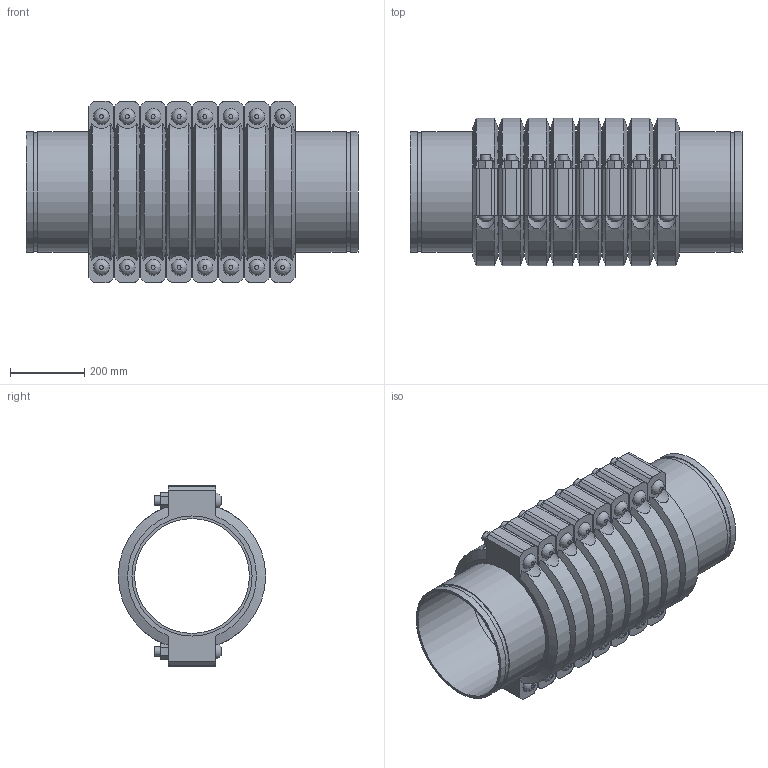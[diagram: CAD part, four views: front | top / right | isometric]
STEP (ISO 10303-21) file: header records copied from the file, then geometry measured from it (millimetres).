
FILE_DESCRIPTION(/* description */ ('VIC SS EXPANSION JOINT 8 COUPLINGS COMPRESSED STYLE 155P (OGS) (POTABLE WATER) ','CAx-IF Rec.Pracs.---Representation and Presentation of Product Manufacturing Information (PMI)---4.0---2014-10-13'),/* implementation_level */ '2;1');
FILE_NAME(/* name */ 'C:\Users\kkamble\AppData\Roaming\Autodesk\ApplicationPlugins\Victaulic.Temp\A39\Victaulic_SS_Expansion Joint_Compressed_8 Couplings_Style 155P (OGS)-Potable Water_8 Coup_Comp_12 (300).stp',/* time_stamp */ '2021-07-16T17:17:39+06:00',/* author */ ('kkamble'),/* organization */ ('Victaulic'),/* preprocessor_version */ 'ST-DEVELOPER v17.2',/* originating_system */ 'Autodesk Inventor 2019',/* authorisation */ '');
FILE_SCHEMA (('AP242_MANAGED_MODEL_BASED_3D_ENGINEERING_MIM_LF { 1 0 10303 442 1 1 4 }'));
Length unit declared in the file: inch
Products named in the file (4): 155P-12.0; Nipple-12.0; Nipple-12.0_1; 077-12.0
Assembly tree (17 placements, depth 2):
  155P-12.0
    Nipple-12.0  x2
    Nipple-12.0_1  x7
    077-12.0  x8
Bounding box: 895.35 x 397 x 488.95 mm (x, y, z)
Volume: 32857080.9 mm3; surface area: 4495581.5 mm2
Topology: 17 solids, 33 shells, 564 faces, 1382 edges, 968 vertices
Faces by surface type: plane 326, cylinder 190, cone 32, bspline 16
Full cylindrical faces by diameter (mm): 25.4 x32, 27.432 x16, 309.677 x9, 318.287 x18, 323.85 x35
Entity records: 2993 total; most frequent: CARTESIAN_POINT 651, DIRECTION 471, ORIENTED_EDGE 398, EDGE_CURVE 199, AXIS2_PLACEMENT_3D 192, VERTEX_POINT 142, EDGE_LOOP 105, CIRCLE 92
